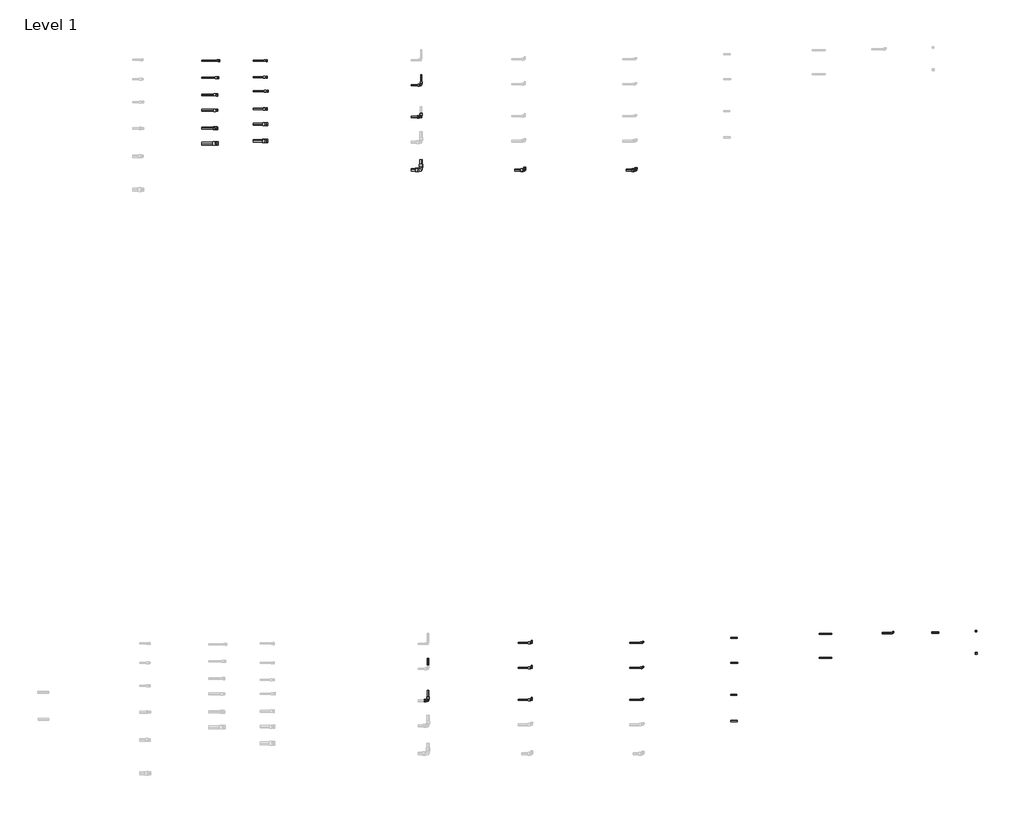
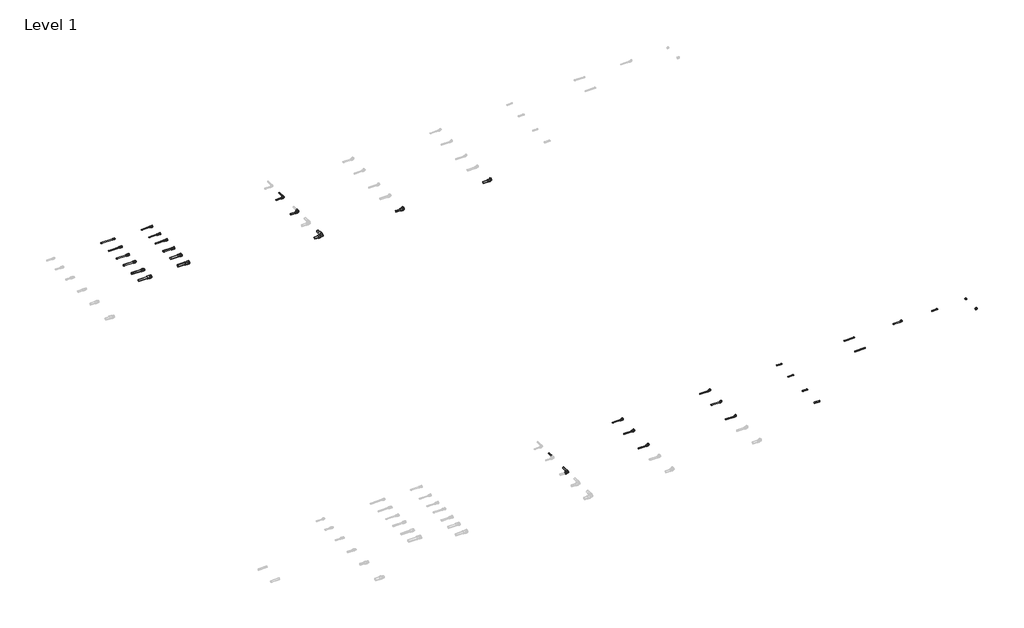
# One storey, part 32 of 78: 36 pipe segments, 27 pipe fittings.
"""IFC4 building model written with IfcOpenShell, lengths in millimetres."""

from ifc_helpers import new_model, si_unit, point, frame, frame_2d, origin, place, context, project, spatial, circle_curve, trimmed, segment, composite_curve, outline, extrude, transform, mapped, element, save
from components import pipe_fitting_bf755f27, pipe_fitting_836a2278, pipe_fitting_ec6341fa, pipe_fitting_8d4eabeb, pipe_fitting_91101529, pipe_fitting_310333dd, pipe_fitting_a340ff43, pipe_fitting_d52baa13, pipe_fitting_c8bca06d, pipe_fitting_5bbd4ca1, pipe_fitting_80b7091b, pipe_fitting_e4b23f8c, pipe_fitting_5776f994, pipe_fitting_f2230aa0, pipe_fitting_68aa3d98, pipe_fitting_c3764643, pipe_fitting_24e9e25e, pipe_fitting_f8d70d0e, pipe_fitting_18fcccac, pipe_fitting_1e296f3b, pipe_fitting_52b87474, pipe_fitting_f7ee4d9f

model = new_model("IFC4")

# Units and contexts
model_context = context("Model", 3, world=origin())
ifc_project = project(units=[si_unit("LENGTHUNIT", "METRE", prefix="MILLI")], contexts=[model_context])

# Site, building, storey
site = spatial("IfcSite", under=ifc_project)
building = spatial("IfcBuilding", under=site)
storey = spatial("IfcBuildingStorey", under=building, Name="Level 1", Elevation=0.0)

# Pipe fittings
placement = place(None, origin())
pipe_fitting_shape = pipe_fitting_bf755f27(model_context)
element("IfcPipeFitting", 1, ObjectType="FASTLOC_Adapter with union nut LX : FSL A union nut IT", at=placement, inside=storey, context=model_context, shape_type="MappedRepresentation", body=[
    mapped(pipe_fitting_shape, transform((33711.9138788, -19661.1148632, 0.0), x_axis=(1.0, 0.0, 0.0), y_axis=(0.0, 1.0, 0.0), z_axis=(0.0, 0.0, 1.0))),
])
pipe_fitting_2_shape = pipe_fitting_836a2278(model_context)
element("IfcPipeFitting", 2, ObjectType="FASTLOC_Adapter_LX, with internal thread : FSL A internal IT", at=placement, inside=storey, context=model_context, shape_type="MappedRepresentation", body=[
    mapped(pipe_fitting_2_shape, transform((33031.9138788, -18746.1148632, 0.0), x_axis=(1.0, 0.0, 0.0), y_axis=(0.0, 1.0, 0.0), z_axis=(0.0, 0.0, 1.0))),
])
pipe_fitting_3_shape = pipe_fitting_ec6341fa(model_context)
element("IfcPipeFitting", 3, ObjectType="FASTLOC_Blanking plug LX : FSL Bp LX RO", at=placement, inside=storey, context=model_context, shape_type="MappedRepresentation", body=[
    mapped(pipe_fitting_3_shape, transform((43915.4857845, -26956.0968766, 0.0), x_axis=(1.0, 0.0, 0.0), y_axis=(0.0, 1.0, 0.0), z_axis=(0.0, 0.0, 1.0))),
])
pipe_fitting_4_shape = pipe_fitting_8d4eabeb(model_context)
element("IfcPipeFitting", 4, ObjectType="FASTLOC_Elbow with female thread LX : FSL A internal RO", at=placement, inside=storey, context=model_context, shape_type="MappedRepresentation", body=[
    mapped(pipe_fitting_4_shape, transform((39136.9744513, -27124.4914884, 0.0), x_axis=(1.0, 0.0, 0.0), y_axis=(0.0, 1.0, 0.0), z_axis=(0.0, 0.0, 1.0))),
])
element("IfcPipeFitting", 5, ObjectType="FASTLOC_Elbow with female thread LX : FSL A internal RO", at=placement, inside=storey, context=model_context, shape_type="MappedRepresentation", body=[
    mapped(pipe_fitting_4_shape, transform((39136.9744513, -27484.4914884, 0.0), x_axis=(1.0, 0.0, 0.0), y_axis=(0.0, 1.0, 0.0), z_axis=(0.0, 0.0, 1.0))),
])
element("IfcPipeFitting", 6, ObjectType="FASTLOC_Elbow with female thread LX : FSL A internal RO", at=placement, inside=storey, context=model_context, shape_type="MappedRepresentation", body=[
    mapped(pipe_fitting_4_shape, transform((39136.9744513, -27944.4914884, 0.0), x_axis=(1.0, 0.0, 0.0), y_axis=(0.0, 1.0, 0.0), z_axis=(0.0, 0.0, 1.0))),
])
pipe_fitting_5_shape = pipe_fitting_91101529(model_context)
element("IfcPipeFitting", 7, ObjectType="FASTLOC_Elbow with male thread G LX : FSL A internal RO", at=placement, inside=storey, context=model_context, shape_type="MappedRepresentation", body=[
    mapped(pipe_fitting_5_shape, transform((42735.4151537, -26985.6016865, 0.0), x_axis=(1.0, 0.0, 0.0), y_axis=(0.0, 1.0, 0.0), z_axis=(0.0, 0.0, 1.0))),
])
pipe_fitting_6_shape = pipe_fitting_310333dd(model_context)
element("IfcPipeFitting", 8, ObjectType="FASTLOC_Elbow with male thread LX : FSL A internal RO", at=placement, inside=storey, context=model_context, shape_type="MappedRepresentation", body=[
    mapped(pipe_fitting_6_shape, transform((37536.9744513, -27124.4914884, 0.0), x_axis=(1.0, 0.0, 0.0), y_axis=(0.0, 1.0, 0.0), z_axis=(0.0, 0.0, 1.0))),
])
element("IfcPipeFitting", 9, ObjectType="FASTLOC_Elbow with male thread LX : FSL A internal RO", at=placement, inside=storey, context=model_context, shape_type="MappedRepresentation", body=[
    mapped(pipe_fitting_6_shape, transform((37536.9744513, -27484.4914884, 0.0), x_axis=(1.0, 0.0, 0.0), y_axis=(0.0, 1.0, 0.0), z_axis=(0.0, 0.0, 1.0))),
])
element("IfcPipeFitting", 10, ObjectType="FASTLOC_Elbow with male thread LX : FSL A internal RO", at=placement, inside=storey, context=model_context, shape_type="MappedRepresentation", body=[
    mapped(pipe_fitting_6_shape, transform((37536.9744513, -27944.4914884, 0.0), x_axis=(1.0, 0.0, 0.0), y_axis=(0.0, 1.0, 0.0), z_axis=(0.0, 0.0, 1.0))),
])
pipe_fitting_7_shape = pipe_fitting_a340ff43(model_context)
element("IfcPipeFitting", 11, ObjectType="FASTLOC_Adapter with union nut LX : FSL A union nut IT", at=placement, inside=storey, context=model_context, shape_type="MappedRepresentation", body=[
    mapped(pipe_fitting_7_shape, transform((33711.9138788, -18746.1148632, 0.0), x_axis=(1.0, 0.0, 0.0), y_axis=(0.0, 1.0, 0.0), z_axis=(0.0, 0.0, 1.0))),
])
pipe_fitting_8_shape = pipe_fitting_d52baa13(model_context)
element("IfcPipeFitting", 12, ObjectType="FASTLOC_Adapter with union nut LX : FSL A union nut IT", at=placement, inside=storey, context=model_context, shape_type="MappedRepresentation", body=[
    mapped(pipe_fitting_8_shape, transform((33711.9138788, -18986.1148632, 0.0), x_axis=(1.0, 0.0, 0.0), y_axis=(0.0, 1.0, 0.0), z_axis=(0.0, 0.0, 1.0))),
])
pipe_fitting_9_shape = pipe_fitting_c8bca06d(model_context)
element("IfcPipeFitting", 13, ObjectType="FASTLOC_Adapter with union nut LX : FSL A union nut IT", at=placement, inside=storey, context=model_context, shape_type="MappedRepresentation", body=[
    mapped(pipe_fitting_9_shape, transform((33726.0560144, -19186.9727276, 0.0), x_axis=(1.0, 0.0, 0.0), y_axis=(0.0, 1.0, 0.0), z_axis=(0.0, 0.0, 1.0))),
])
pipe_fitting_10_shape = pipe_fitting_5bbd4ca1(model_context)
element("IfcPipeFitting", 14, ObjectType="FASTLOC_Adapter with union nut LX : FSL A union nut IT", at=placement, inside=storey, context=model_context, shape_type="MappedRepresentation", body=[
    mapped(pipe_fitting_10_shape, transform((33711.9138788, -19441.1148632, 0.0), x_axis=(1.0, 0.0, 0.0), y_axis=(0.0, 1.0, 0.0), z_axis=(0.0, 0.0, 1.0))),
])
pipe_fitting_11_shape = pipe_fitting_80b7091b(model_context)
element("IfcPipeFitting", 15, ObjectType="FASTLOC_Adapter with union nut LX : FSL A union nut IT", at=placement, inside=storey, context=model_context, shape_type="MappedRepresentation", body=[
    mapped(pipe_fitting_11_shape, transform((33711.9138788, -19901.1148632, 0.0), x_axis=(1.0, 0.0, 0.0), y_axis=(0.0, 1.0, 0.0), z_axis=(0.0, 0.0, 1.0))),
])
pipe_fitting_12_shape = pipe_fitting_e4b23f8c(model_context)
element("IfcPipeFitting", 16, ObjectType="FASTLOC_Corner LX : FSL C LX IT", at=placement, inside=storey, context=model_context, shape_type="MappedRepresentation", body=[
    mapped(pipe_fitting_12_shape, transform((35945.4707441, -19098.8136389, 0.0), x_axis=(1.0, 0.0, 0.0), y_axis=(0.0, 1.0, 0.0), z_axis=(0.0, 0.0, 1.0))),
])
pipe_fitting_13_shape = pipe_fitting_5776f994(model_context)
element("IfcPipeFitting", 17, ObjectType="FASTLOC_Corner LX : FSL C LX IT", at=placement, inside=storey, context=model_context, shape_type="MappedRepresentation", body=[
    mapped(pipe_fitting_13_shape, transform((35945.4707441, -19558.8136389, 0.0), x_axis=(1.0, 0.0, 0.0), y_axis=(0.0, 1.0, 0.0), z_axis=(0.0, 0.0, 1.0))),
])
pipe_fitting_14_shape = pipe_fitting_f2230aa0(model_context)
element("IfcPipeFitting", 18, ObjectType="FASTLOC_Corner LX : FSL C LX IT", at=placement, inside=storey, context=model_context, shape_type="MappedRepresentation", body=[
    mapped(pipe_fitting_14_shape, transform((35945.4707441, -20318.8136389, 0.0), x_axis=(1.0, 0.0, 0.0), y_axis=(0.0, 1.0, 0.0), z_axis=(0.0, 0.0, 1.0))),
])
pipe_fitting_15_shape = pipe_fitting_68aa3d98(model_context)
element("IfcPipeFitting", 19, ObjectType="FASTLOC_Elbow with male thread LX : FSL A internal IT", at=placement, inside=storey, context=model_context, shape_type="MappedRepresentation", body=[
    mapped(pipe_fitting_15_shape, transform((37436.9744513, -20324.4914884, 0.0), x_axis=(1.0, 0.0, 0.0), y_axis=(0.0, 1.0, 0.0), z_axis=(0.0, 0.0, 1.0))),
])
pipe_fitting_16_shape = pipe_fitting_c3764643(model_context)
element("IfcPipeFitting", 20, ObjectType="FASTLOC_Elbow with female thread LX : FSL A internal IT", at=placement, inside=storey, context=model_context, shape_type="MappedRepresentation", body=[
    mapped(pipe_fitting_16_shape, transform((39036.9744513, -20324.4914884, 0.0), x_axis=(1.0, 0.0, 0.0), y_axis=(0.0, 1.0, 0.0), z_axis=(0.0, 0.0, 1.0))),
])
element("IfcPipeFitting", 21, ObjectType="FASTLOC_Corner LX : FSL C LX RO", at=placement, inside=storey, context=model_context, shape_type="MappedRepresentation", body=[
    mapped(pipe_fitting_13_shape, transform((36045.4707441, -27958.8136389, 0.0), x_axis=(1.0, 0.0, 0.0), y_axis=(0.0, 1.0, 0.0), z_axis=(0.0, 0.0, 1.0))),
])
pipe_fitting_17_shape = pipe_fitting_24e9e25e(model_context)
element("IfcPipeFitting", 22, ObjectType="FASTLOC_Blanking plug LX : FSL Bp LX RO", at=placement, inside=storey, context=model_context, shape_type="MappedRepresentation", body=[
    mapped(pipe_fitting_17_shape, transform((43915.4857845, -27276.0968766, 0.0), x_axis=(1.0, 0.0, 0.0), y_axis=(0.0, 1.0, 0.0), z_axis=(0.0, 0.0, 1.0))),
])
pipe_fitting_18_shape = pipe_fitting_f8d70d0e(model_context)
element("IfcPipeFitting", 23, ObjectType="FASTLOC_Adapter_LX, with internal thread : FSL A internal IT", at=placement, inside=storey, context=model_context, shape_type="MappedRepresentation", body=[
    mapped(pipe_fitting_18_shape, transform((33002.7717432, -19240.2569989, 0.0), x_axis=(1.0, 0.0, 0.0), y_axis=(0.0, 1.0, 0.0), z_axis=(0.0, 0.0, 1.0))),
])
pipe_fitting_19_shape = pipe_fitting_18fcccac(model_context)
element("IfcPipeFitting", 24, ObjectType="FASTLOC_Adapter_LX, with internal thread : FSL A internal IT", at=placement, inside=storey, context=model_context, shape_type="MappedRepresentation", body=[
    mapped(pipe_fitting_19_shape, transform((33002.7717432, -19460.2569989, 0.0), x_axis=(1.0, 0.0, 0.0), y_axis=(0.0, 1.0, 0.0), z_axis=(0.0, 0.0, 1.0))),
])
pipe_fitting_20_shape = pipe_fitting_1e296f3b(model_context)
element("IfcPipeFitting", 25, ObjectType="FASTLOC_Adapter_LX, with internal thread : FSL A internal IT", at=placement, inside=storey, context=model_context, shape_type="MappedRepresentation", body=[
    mapped(pipe_fitting_20_shape, transform((33002.7717432, -19720.2569989, 0.0), x_axis=(1.0, 0.0, 0.0), y_axis=(0.0, 1.0, 0.0), z_axis=(0.0, 0.0, 1.0))),
])
pipe_fitting_21_shape = pipe_fitting_52b87474(model_context)
element("IfcPipeFitting", 26, ObjectType="FASTLOC_Adapter_LX, with internal thread : FSL A internal IT", at=placement, inside=storey, context=model_context, shape_type="MappedRepresentation", body=[
    mapped(pipe_fitting_21_shape, transform((33002.7717432, -19940.2569989, 0.0), x_axis=(1.0, 0.0, 0.0), y_axis=(0.0, 1.0, 0.0), z_axis=(0.0, 0.0, 1.0))),
])
pipe_fitting_22_shape = pipe_fitting_f7ee4d9f(model_context)
element("IfcPipeFitting", 27, ObjectType="FASTLOC_Adapter_LX, with internal thread : FSL A internal IT", at=placement, inside=storey, context=model_context, shape_type="MappedRepresentation", body=[
    mapped(pipe_fitting_22_shape, transform((33019.5138788, -18992.5715861, 0.0), x_axis=(1.0, 0.0, 0.0), y_axis=(0.0, 1.0, 0.0), z_axis=(0.0, 0.0, 1.0))),
])

# Pipe segments
element("IfcPipeSegment", 28, ObjectType="FASTLOC LX ML IT bar", at=placement, inside=storey, context=model_context, shape_type="SweptSolid", body=[
    extrude(outline(composite_curve([segment(trimmed(circle_curve(frame_2d((-18746.1148632, 0.0)), 8.0), [point((-18738.1148632, 0.0))], [point((-18746.1148632, -8.0))], False, "CARTESIAN"), True, "CONTINUOUS"), segment(trimmed(circle_curve(frame_2d((-18746.1148632, 0.0)), 8.0), [point((-18746.1148632, -8.0))], [point((-18754.1148632, 0.0))], False, "CARTESIAN"), True, "CONTINUOUS"), segment(trimmed(circle_curve(frame_2d((-18746.1148632, 0.0)), 8.0), [point((-18754.1148632, 0.0))], [point((-18746.1148632, 8.0))], False, "CARTESIAN"), True, "CONTINUOUS"), segment(trimmed(circle_curve(frame_2d((-18746.1148632, 0.0)), 8.0), [point((-18746.1148632, 8.0))], [point((-18738.1148632, 0.0))], False, "CARTESIAN"), True, "CONTINUOUS")], self_intersect=False)), frame((32790.3717432, 0.0, 0.0), z_axis=(1.0, 0.0, 0.0), x_axis=(0.0, 1.0, 0.0)), (0.0, 0.0, 1.0), 229.1421356),
])
element("IfcPipeSegment", 29, ObjectType="FASTLOC LX ML IT bar", at=placement, inside=storey, context=model_context, shape_type="SweptSolid", body=[
    extrude(outline(composite_curve([segment(trimmed(circle_curve(frame_2d((-19098.8136389, 0.0)), 8.0), [point((-19090.8136389, 0.0))], [point((-19098.8136389, -8.0))], False, "CARTESIAN"), True, "CONTINUOUS"), segment(trimmed(circle_curve(frame_2d((-19098.8136389, 0.0)), 8.0), [point((-19098.8136389, -8.0))], [point((-19106.8136389, 0.0))], False, "CARTESIAN"), True, "CONTINUOUS"), segment(trimmed(circle_curve(frame_2d((-19098.8136389, 0.0)), 8.0), [point((-19106.8136389, 0.0))], [point((-19098.8136389, 8.0))], False, "CARTESIAN"), True, "CONTINUOUS"), segment(trimmed(circle_curve(frame_2d((-19098.8136389, 0.0)), 8.0), [point((-19098.8136389, 8.0))], [point((-19090.8136389, 0.0))], False, "CARTESIAN"), True, "CONTINUOUS")], self_intersect=False)), frame((35803.3707441, 0.0, 0.0), z_axis=(1.0, 0.0, 0.0), x_axis=(0.0, 1.0, 0.0)), (0.0, 0.0, 1.0), 117.5),
])
element("IfcPipeSegment", 30, ObjectType="FASTLOC LX ML IT bar", at=placement, inside=storey, context=model_context, shape_type="SweptSolid", body=[
    extrude(outline(composite_curve([segment(trimmed(circle_curve(frame_2d((0.0, 35945.4707441)), 8.0), [point((0.0, 35953.4707441))], [point((8.0, 35945.4707441))], False, "CARTESIAN"), True, "CONTINUOUS"), segment(trimmed(circle_curve(frame_2d((0.0, 35945.4707441)), 8.0), [point((8.0, 35945.4707441))], [point((0.0, 35937.4707441))], False, "CARTESIAN"), True, "CONTINUOUS"), segment(trimmed(circle_curve(frame_2d((0.0, 35945.4707441)), 8.0), [point((0.0, 35937.4707441))], [point((-8.0, 35945.4707441))], False, "CARTESIAN"), True, "CONTINUOUS"), segment(trimmed(circle_curve(frame_2d((0.0, 35945.4707441)), 8.0), [point((-8.0, 35945.4707441))], [point((0.0, 35953.4707441))], False, "CARTESIAN"), True, "CONTINUOUS")], self_intersect=False)), frame((0.0, -19074.2136389, 0.0), z_axis=(0.0, 1.0, 0.0), x_axis=(0.0, 0.0, 1.0)), (0.0, 0.0, 1.0), 122.5),
])
element("IfcPipeSegment", 31, ObjectType="FASTLOC LX ML IT bar", at=placement, inside=storey, context=model_context, shape_type="SweptSolid", body=[
    extrude(outline(composite_curve([segment(trimmed(circle_curve(frame_2d((-19558.8136389, 0.0)), 12.5), [point((-19546.3136389, 0.0))], [point((-19558.8136389, -12.5))], False, "CARTESIAN"), True, "CONTINUOUS"), segment(trimmed(circle_curve(frame_2d((-19558.8136389, 0.0)), 12.5), [point((-19558.8136389, -12.5))], [point((-19571.3136389, 0.0))], False, "CARTESIAN"), True, "CONTINUOUS"), segment(trimmed(circle_curve(frame_2d((-19558.8136389, 0.0)), 12.5), [point((-19571.3136389, 0.0))], [point((-19558.8136389, 12.5))], False, "CARTESIAN"), True, "CONTINUOUS"), segment(trimmed(circle_curve(frame_2d((-19558.8136389, 0.0)), 12.5), [point((-19558.8136389, 12.5))], [point((-19546.3136389, 0.0))], False, "CARTESIAN"), True, "CONTINUOUS")], self_intersect=False)), frame((35803.3707441, 0.0, 0.0), z_axis=(1.0, 0.0, 0.0), x_axis=(0.0, 1.0, 0.0)), (0.0, 0.0, 1.0), 113.1),
])
element("IfcPipeSegment", 32, ObjectType="FASTLOC LX ML IT bar", at=placement, inside=storey, context=model_context, shape_type="SweptSolid", body=[
    extrude(outline(composite_curve([segment(trimmed(circle_curve(frame_2d((-20318.8136389, 0.0)), 20.0), [point((-20298.8136389, 0.0))], [point((-20318.8136389, -20.0))], False, "CARTESIAN"), True, "CONTINUOUS"), segment(trimmed(circle_curve(frame_2d((-20318.8136389, 0.0)), 20.0), [point((-20318.8136389, -20.0))], [point((-20338.8136389, 0.0))], False, "CARTESIAN"), True, "CONTINUOUS"), segment(trimmed(circle_curve(frame_2d((-20318.8136389, 0.0)), 20.0), [point((-20338.8136389, 0.0))], [point((-20318.8136389, 20.0))], False, "CARTESIAN"), True, "CONTINUOUS"), segment(trimmed(circle_curve(frame_2d((-20318.8136389, 0.0)), 20.0), [point((-20318.8136389, 20.0))], [point((-20298.8136389, 0.0))], False, "CARTESIAN"), True, "CONTINUOUS")], self_intersect=False)), frame((35803.3707441, 0.0, 0.0), z_axis=(1.0, 0.0, 0.0), x_axis=(0.0, 1.0, 0.0)), (0.0, 0.0, 1.0), 97.4),
])
element("IfcPipeSegment", 33, ObjectType="FASTLOC LX ML IT bar", at=placement, inside=storey, context=model_context, shape_type="SweptSolid", body=[
    extrude(outline(composite_curve([segment(trimmed(circle_curve(frame_2d((0.0, 35945.4707441)), 20.0), [point((0.0, 35965.4707441))], [point((20.0, 35945.4707441))], False, "CARTESIAN"), True, "CONTINUOUS"), segment(trimmed(circle_curve(frame_2d((0.0, 35945.4707441)), 20.0), [point((20.0, 35945.4707441))], [point((0.0, 35925.4707441))], False, "CARTESIAN"), True, "CONTINUOUS"), segment(trimmed(circle_curve(frame_2d((0.0, 35945.4707441)), 20.0), [point((0.0, 35925.4707441))], [point((-20.0, 35945.4707441))], False, "CARTESIAN"), True, "CONTINUOUS"), segment(trimmed(circle_curve(frame_2d((0.0, 35945.4707441)), 20.0), [point((-20.0, 35945.4707441))], [point((0.0, 35965.4707441))], False, "CARTESIAN"), True, "CONTINUOUS")], self_intersect=False)), frame((0.0, -20274.1136389, 0.0), z_axis=(0.0, 1.0, 0.0), x_axis=(0.0, 0.0, 1.0)), (0.0, 0.0, 1.0), 102.4),
])
element("IfcPipeSegment", 34, ObjectType="FASTLOC LX ML IT bar", at=placement, inside=storey, context=model_context, shape_type="SweptSolid", body=[
    extrude(outline(composite_curve([segment(trimmed(circle_curve(frame_2d((-18992.5715861, 0.0)), 8.0), [point((-18984.5715861, 0.0))], [point((-18992.5715861, -8.0))], False, "CARTESIAN"), True, "CONTINUOUS"), segment(trimmed(circle_curve(frame_2d((-18992.5715861, 0.0)), 8.0), [point((-18992.5715861, -8.0))], [point((-19000.5715861, 0.0))], False, "CARTESIAN"), True, "CONTINUOUS"), segment(trimmed(circle_curve(frame_2d((-18992.5715861, 0.0)), 8.0), [point((-19000.5715861, 0.0))], [point((-18992.5715861, 8.0))], False, "CARTESIAN"), True, "CONTINUOUS"), segment(trimmed(circle_curve(frame_2d((-18992.5715861, 0.0)), 8.0), [point((-18992.5715861, 8.0))], [point((-18984.5715861, 0.0))], False, "CARTESIAN"), True, "CONTINUOUS")], self_intersect=False)), frame((32790.3717432, 0.0, 0.0), z_axis=(1.0, 0.0, 0.0), x_axis=(0.0, 1.0, 0.0)), (0.0, 0.0, 1.0), 217.4421356),
])
element("IfcPipeSegment", 35, ObjectType="FASTLOC LX ML IT bar", at=placement, inside=storey, context=model_context, shape_type="SweptSolid", body=[
    extrude(outline(composite_curve([segment(trimmed(circle_curve(frame_2d((-19240.2569989, 0.0)), 8.0), [point((-19232.2569989, 0.0))], [point((-19240.2569989, -8.0))], False, "CARTESIAN"), True, "CONTINUOUS"), segment(trimmed(circle_curve(frame_2d((-19240.2569989, 0.0)), 8.0), [point((-19240.2569989, -8.0))], [point((-19248.2569989, 0.0))], False, "CARTESIAN"), True, "CONTINUOUS"), segment(trimmed(circle_curve(frame_2d((-19240.2569989, 0.0)), 8.0), [point((-19248.2569989, 0.0))], [point((-19240.2569989, 8.0))], False, "CARTESIAN"), True, "CONTINUOUS"), segment(trimmed(circle_curve(frame_2d((-19240.2569989, 0.0)), 8.0), [point((-19240.2569989, 8.0))], [point((-19232.2569989, 0.0))], False, "CARTESIAN"), True, "CONTINUOUS")], self_intersect=False)), frame((32790.3717432, 0.0, 0.0), z_axis=(1.0, 0.0, 0.0), x_axis=(0.0, 1.0, 0.0)), (0.0, 0.0, 1.0), 199.1),
])
element("IfcPipeSegment", 36, ObjectType="FASTLOC LX ML IT bar", at=placement, inside=storey, context=model_context, shape_type="SweptSolid", body=[
    extrude(outline(composite_curve([segment(trimmed(circle_curve(frame_2d((-19460.2569989, 0.0)), 12.5), [point((-19447.7569989, 0.0))], [point((-19460.2569989, -12.5))], False, "CARTESIAN"), True, "CONTINUOUS"), segment(trimmed(circle_curve(frame_2d((-19460.2569989, 0.0)), 12.5), [point((-19460.2569989, -12.5))], [point((-19472.7569989, 0.0))], False, "CARTESIAN"), True, "CONTINUOUS"), segment(trimmed(circle_curve(frame_2d((-19460.2569989, 0.0)), 12.5), [point((-19472.7569989, 0.0))], [point((-19460.2569989, 12.5))], False, "CARTESIAN"), True, "CONTINUOUS"), segment(trimmed(circle_curve(frame_2d((-19460.2569989, 0.0)), 12.5), [point((-19460.2569989, 12.5))], [point((-19447.7569989, 0.0))], False, "CARTESIAN"), True, "CONTINUOUS")], self_intersect=False)), frame((32790.3717432, 0.0, 0.0), z_axis=(1.0, 0.0, 0.0), x_axis=(0.0, 1.0, 0.0)), (0.0, 0.0, 1.0), 199.5),
])
element("IfcPipeSegment", 37, ObjectType="FASTLOC LX ML IT bar", at=placement, inside=storey, context=model_context, shape_type="SweptSolid", body=[
    extrude(outline(composite_curve([segment(trimmed(circle_curve(frame_2d((-19720.2569989, 0.0)), 16.0), [point((-19704.2569989, 0.0))], [point((-19720.2569989, -16.0))], False, "CARTESIAN"), True, "CONTINUOUS"), segment(trimmed(circle_curve(frame_2d((-19720.2569989, 0.0)), 16.0), [point((-19720.2569989, -16.0))], [point((-19736.2569989, 0.0))], False, "CARTESIAN"), True, "CONTINUOUS"), segment(trimmed(circle_curve(frame_2d((-19720.2569989, 0.0)), 16.0), [point((-19736.2569989, 0.0))], [point((-19720.2569989, 16.0))], False, "CARTESIAN"), True, "CONTINUOUS"), segment(trimmed(circle_curve(frame_2d((-19720.2569989, 0.0)), 16.0), [point((-19720.2569989, 16.0))], [point((-19704.2569989, 0.0))], False, "CARTESIAN"), True, "CONTINUOUS")], self_intersect=False)), frame((32790.3717432, 0.0, 0.0), z_axis=(1.0, 0.0, 0.0), x_axis=(0.0, 1.0, 0.0)), (0.0, 0.0, 1.0), 197.9),
])
element("IfcPipeSegment", 38, ObjectType="FASTLOC LX ML IT bar", at=placement, inside=storey, context=model_context, shape_type="SweptSolid", body=[
    extrude(outline(composite_curve([segment(trimmed(circle_curve(frame_2d((-19940.2569989, 0.0)), 20.0), [point((-19920.2569989, 0.0))], [point((-19940.2569989, -20.0))], False, "CARTESIAN"), True, "CONTINUOUS"), segment(trimmed(circle_curve(frame_2d((-19940.2569989, 0.0)), 20.0), [point((-19940.2569989, -20.0))], [point((-19960.2569989, 0.0))], False, "CARTESIAN"), True, "CONTINUOUS"), segment(trimmed(circle_curve(frame_2d((-19940.2569989, 0.0)), 20.0), [point((-19960.2569989, 0.0))], [point((-19940.2569989, 20.0))], False, "CARTESIAN"), True, "CONTINUOUS"), segment(trimmed(circle_curve(frame_2d((-19940.2569989, 0.0)), 20.0), [point((-19940.2569989, 20.0))], [point((-19920.2569989, 0.0))], False, "CARTESIAN"), True, "CONTINUOUS")], self_intersect=False)), frame((32790.3717432, 0.0, 0.0), z_axis=(1.0, 0.0, 0.0), x_axis=(0.0, 1.0, 0.0)), (0.0, 0.0, 1.0), 192.4),
])
element("IfcPipeSegment", 39, ObjectType="FASTLOC LX ML IT bar", at=placement, inside=storey, context=model_context, shape_type="SweptSolid", body=[
    extrude(outline(composite_curve([segment(trimmed(circle_curve(frame_2d((-18746.1148632, 0.0)), 8.0), [point((-18738.1148632, 0.0))], [point((-18746.1148632, -8.0))], False, "CARTESIAN"), True, "CONTINUOUS"), segment(trimmed(circle_curve(frame_2d((-18746.1148632, 0.0)), 8.0), [point((-18746.1148632, -8.0))], [point((-18754.1148632, 0.0))], False, "CARTESIAN"), True, "CONTINUOUS"), segment(trimmed(circle_curve(frame_2d((-18746.1148632, 0.0)), 8.0), [point((-18754.1148632, 0.0))], [point((-18746.1148632, 8.0))], False, "CARTESIAN"), True, "CONTINUOUS"), segment(trimmed(circle_curve(frame_2d((-18746.1148632, 0.0)), 8.0), [point((-18746.1148632, 8.0))], [point((-18738.1148632, 0.0))], False, "CARTESIAN"), True, "CONTINUOUS")], self_intersect=False)), frame((33532.9138788, 0.0, 0.0), z_axis=(1.0, 0.0, 0.0), x_axis=(0.0, 1.0, 0.0)), (0.0, 0.0, 1.0), 170.0),
])
element("IfcPipeSegment", 40, ObjectType="FASTLOC LX ML IT bar", at=placement, inside=storey, context=model_context, shape_type="SweptSolid", body=[
    extrude(outline(composite_curve([segment(trimmed(circle_curve(frame_2d((-18986.1148632, 0.0)), 8.0), [point((-18978.1148632, 0.0))], [point((-18986.1148632, -8.0))], False, "CARTESIAN"), True, "CONTINUOUS"), segment(trimmed(circle_curve(frame_2d((-18986.1148632, 0.0)), 8.0), [point((-18986.1148632, -8.0))], [point((-18994.1148632, 0.0))], False, "CARTESIAN"), True, "CONTINUOUS"), segment(trimmed(circle_curve(frame_2d((-18986.1148632, 0.0)), 8.0), [point((-18994.1148632, 0.0))], [point((-18986.1148632, 8.0))], False, "CARTESIAN"), True, "CONTINUOUS"), segment(trimmed(circle_curve(frame_2d((-18986.1148632, 0.0)), 8.0), [point((-18986.1148632, 8.0))], [point((-18978.1148632, 0.0))], False, "CARTESIAN"), True, "CONTINUOUS")], self_intersect=False)), frame((33532.9138788, 0.0, 0.0), z_axis=(1.0, 0.0, 0.0), x_axis=(0.0, 1.0, 0.0)), (0.0, 0.0, 1.0), 170.0),
])
element("IfcPipeSegment", 41, ObjectType="FASTLOC LX ML IT bar", at=placement, inside=storey, context=model_context, shape_type="SweptSolid", body=[
    extrude(outline(composite_curve([segment(trimmed(circle_curve(frame_2d((-19441.1148632, 0.0)), 12.5), [point((-19428.6148632, 0.0))], [point((-19441.1148632, -12.5))], False, "CARTESIAN"), True, "CONTINUOUS"), segment(trimmed(circle_curve(frame_2d((-19441.1148632, 0.0)), 12.5), [point((-19441.1148632, -12.5))], [point((-19453.6148632, 0.0))], False, "CARTESIAN"), True, "CONTINUOUS"), segment(trimmed(circle_curve(frame_2d((-19441.1148632, 0.0)), 12.5), [point((-19453.6148632, 0.0))], [point((-19441.1148632, 12.5))], False, "CARTESIAN"), True, "CONTINUOUS"), segment(trimmed(circle_curve(frame_2d((-19441.1148632, 0.0)), 12.5), [point((-19441.1148632, 12.5))], [point((-19428.6148632, 0.0))], False, "CARTESIAN"), True, "CONTINUOUS")], self_intersect=False)), frame((33532.9138788, 0.0, 0.0), z_axis=(1.0, 0.0, 0.0), x_axis=(0.0, 1.0, 0.0)), (0.0, 0.0, 1.0), 168.7),
])
element("IfcPipeSegment", 42, ObjectType="FASTLOC LX ML IT bar", at=placement, inside=storey, context=model_context, shape_type="SweptSolid", body=[
    extrude(outline(composite_curve([segment(trimmed(circle_curve(frame_2d((-19661.1148632, 0.0)), 16.0), [point((-19645.1148632, 0.0))], [point((-19661.1148632, -16.0))], False, "CARTESIAN"), True, "CONTINUOUS"), segment(trimmed(circle_curve(frame_2d((-19661.1148632, 0.0)), 16.0), [point((-19661.1148632, -16.0))], [point((-19677.1148632, 0.0))], False, "CARTESIAN"), True, "CONTINUOUS"), segment(trimmed(circle_curve(frame_2d((-19661.1148632, 0.0)), 16.0), [point((-19677.1148632, 0.0))], [point((-19661.1148632, 16.0))], False, "CARTESIAN"), True, "CONTINUOUS"), segment(trimmed(circle_curve(frame_2d((-19661.1148632, 0.0)), 16.0), [point((-19661.1148632, 16.0))], [point((-19645.1148632, 0.0))], False, "CARTESIAN"), True, "CONTINUOUS")], self_intersect=False)), frame((33532.9138788, 0.0, 0.0), z_axis=(1.0, 0.0, 0.0), x_axis=(0.0, 1.0, 0.0)), (0.0, 0.0, 1.0), 167.5),
])
element("IfcPipeSegment", 43, ObjectType="FASTLOC LX ML IT bar", at=placement, inside=storey, context=model_context, shape_type="SweptSolid", body=[
    extrude(outline(composite_curve([segment(trimmed(circle_curve(frame_2d((-19901.1148632, 0.0)), 20.0), [point((-19881.1148632, 0.0))], [point((-19901.1148632, -20.0))], False, "CARTESIAN"), True, "CONTINUOUS"), segment(trimmed(circle_curve(frame_2d((-19901.1148632, 0.0)), 20.0), [point((-19901.1148632, -20.0))], [point((-19921.1148632, 0.0))], False, "CARTESIAN"), True, "CONTINUOUS"), segment(trimmed(circle_curve(frame_2d((-19901.1148632, 0.0)), 20.0), [point((-19921.1148632, 0.0))], [point((-19901.1148632, 20.0))], False, "CARTESIAN"), True, "CONTINUOUS"), segment(trimmed(circle_curve(frame_2d((-19901.1148632, 0.0)), 20.0), [point((-19901.1148632, 20.0))], [point((-19881.1148632, 0.0))], False, "CARTESIAN"), True, "CONTINUOUS")], self_intersect=False)), frame((33532.9138788, 0.0, 0.0), z_axis=(1.0, 0.0, 0.0), x_axis=(0.0, 1.0, 0.0)), (0.0, 0.0, 1.0), 167.5),
])
element("IfcPipeSegment", 44, ObjectType="FASTLOC LX ML IT bar", at=placement, inside=storey, context=model_context, shape_type="SweptSolid", body=[
    extrude(outline(composite_curve([segment(trimmed(circle_curve(frame_2d((-20324.4914884, 0.0)), 16.0), [point((-20308.4914884, 0.0))], [point((-20324.4914884, -16.0))], False, "CARTESIAN"), True, "CONTINUOUS"), segment(trimmed(circle_curve(frame_2d((-20324.4914884, 0.0)), 16.0), [point((-20324.4914884, -16.0))], [point((-20340.4914884, 0.0))], False, "CARTESIAN"), True, "CONTINUOUS"), segment(trimmed(circle_curve(frame_2d((-20324.4914884, 0.0)), 16.0), [point((-20340.4914884, 0.0))], [point((-20324.4914884, 16.0))], False, "CARTESIAN"), True, "CONTINUOUS"), segment(trimmed(circle_curve(frame_2d((-20324.4914884, 0.0)), 16.0), [point((-20324.4914884, 16.0))], [point((-20308.4914884, 0.0))], False, "CARTESIAN"), True, "CONTINUOUS")], self_intersect=False)), frame((37294.8744513, 0.0, 0.0), z_axis=(1.0, 0.0, 0.0), x_axis=(0.0, 1.0, 0.0)), (0.0, 0.0, 1.0), 112.4),
])
element("IfcPipeSegment", 45, ObjectType="FASTLOC LX ML IT bar", at=placement, inside=storey, context=model_context, shape_type="SweptSolid", body=[
    extrude(outline(composite_curve([segment(trimmed(circle_curve(frame_2d((-19186.9727276, 0.0)), 8.0), [point((-19178.9727276, 0.0))], [point((-19186.9727276, -8.0))], False, "CARTESIAN"), True, "CONTINUOUS"), segment(trimmed(circle_curve(frame_2d((-19186.9727276, 0.0)), 8.0), [point((-19186.9727276, -8.0))], [point((-19194.9727276, 0.0))], False, "CARTESIAN"), True, "CONTINUOUS"), segment(trimmed(circle_curve(frame_2d((-19186.9727276, 0.0)), 8.0), [point((-19194.9727276, 0.0))], [point((-19186.9727276, 8.0))], False, "CARTESIAN"), True, "CONTINUOUS"), segment(trimmed(circle_curve(frame_2d((-19186.9727276, 0.0)), 8.0), [point((-19186.9727276, 8.0))], [point((-19178.9727276, 0.0))], False, "CARTESIAN"), True, "CONTINUOUS")], self_intersect=False)), frame((33532.9138788, 0.0, 0.0), z_axis=(1.0, 0.0, 0.0), x_axis=(0.0, 1.0, 0.0)), (0.0, 0.0, 1.0), 184.1421356),
])
element("IfcPipeSegment", 46, ObjectType="FASTLOC LX ML IT bar", at=placement, inside=storey, context=model_context, shape_type="SweptSolid", body=[
    extrude(outline(composite_curve([segment(trimmed(circle_curve(frame_2d((-20324.4914884, 0.0)), 16.0), [point((-20308.4914884, 0.0))], [point((-20324.4914884, -16.0))], False, "CARTESIAN"), True, "CONTINUOUS"), segment(trimmed(circle_curve(frame_2d((-20324.4914884, 0.0)), 16.0), [point((-20324.4914884, -16.0))], [point((-20340.4914884, 0.0))], False, "CARTESIAN"), True, "CONTINUOUS"), segment(trimmed(circle_curve(frame_2d((-20324.4914884, 0.0)), 16.0), [point((-20340.4914884, 0.0))], [point((-20324.4914884, 16.0))], False, "CARTESIAN"), True, "CONTINUOUS"), segment(trimmed(circle_curve(frame_2d((-20324.4914884, 0.0)), 16.0), [point((-20324.4914884, 16.0))], [point((-20308.4914884, 0.0))], False, "CARTESIAN"), True, "CONTINUOUS")], self_intersect=False)), frame((38894.8744513, 0.0, 0.0), z_axis=(1.0, 0.0, 0.0), x_axis=(0.0, 1.0, 0.0)), (0.0, 0.0, 1.0), 110.1),
])
element("IfcPipeSegment", 47, ObjectType="FASTLOC LX ML RO bar", at=placement, inside=storey, context=model_context, shape_type="SweptSolid", body=[
    extrude(outline(composite_curve([segment(trimmed(circle_curve(frame_2d((0.0, 36045.4707441)), 8.0), [point((0.0, 36053.4707441))], [point((8.0, 36045.4707441))], False, "CARTESIAN"), True, "CONTINUOUS"), segment(trimmed(circle_curve(frame_2d((0.0, 36045.4707441)), 8.0), [point((8.0, 36045.4707441))], [point((0.0, 36037.4707441))], False, "CARTESIAN"), True, "CONTINUOUS"), segment(trimmed(circle_curve(frame_2d((0.0, 36045.4707441)), 8.0), [point((0.0, 36037.4707441))], [point((-8.0, 36045.4707441))], False, "CARTESIAN"), True, "CONTINUOUS"), segment(trimmed(circle_curve(frame_2d((0.0, 36045.4707441)), 8.0), [point((-8.0, 36045.4707441))], [point((0.0, 36053.4707441))], False, "CARTESIAN"), True, "CONTINUOUS")], self_intersect=False)), frame((0.0, -27474.2136389, 0.0), z_axis=(0.0, 1.0, 0.0), x_axis=(0.0, 0.0, 1.0)), (0.0, 0.0, 1.0), 122.5),
])
element("IfcPipeSegment", 48, ObjectType="FASTLOC LX ML RO bar", at=placement, inside=storey, context=model_context, shape_type="SweptSolid", body=[
    extrude(outline(composite_curve([segment(trimmed(circle_curve(frame_2d((0.0, 36045.4707441)), 12.5), [point((0.0, 36057.9707441))], [point((12.5, 36045.4707441))], False, "CARTESIAN"), True, "CONTINUOUS"), segment(trimmed(circle_curve(frame_2d((0.0, 36045.4707441)), 12.5), [point((12.5, 36045.4707441))], [point((0.0, 36032.9707441))], False, "CARTESIAN"), True, "CONTINUOUS"), segment(trimmed(circle_curve(frame_2d((0.0, 36045.4707441)), 12.5), [point((0.0, 36032.9707441))], [point((-12.5, 36045.4707441))], False, "CARTESIAN"), True, "CONTINUOUS"), segment(trimmed(circle_curve(frame_2d((0.0, 36045.4707441)), 12.5), [point((-12.5, 36045.4707441))], [point((0.0, 36057.9707441))], False, "CARTESIAN"), True, "CONTINUOUS")], self_intersect=False)), frame((0.0, -27929.8136389, 0.0), z_axis=(0.0, 1.0, 0.0), x_axis=(0.0, 0.0, 1.0)), (0.0, 0.0, 1.0), 118.1),
])
element("IfcPipeSegment", 49, ObjectType="FASTLOC LX ML RO bar", at=placement, inside=storey, context=model_context, shape_type="SweptSolid", body=[
    extrude(outline(composite_curve([segment(trimmed(circle_curve(frame_2d((-27124.4914884, 0.0)), 8.0), [point((-27116.4914884, 0.0))], [point((-27124.4914884, -8.0))], False, "CARTESIAN"), True, "CONTINUOUS"), segment(trimmed(circle_curve(frame_2d((-27124.4914884, 0.0)), 8.0), [point((-27124.4914884, -8.0))], [point((-27132.4914884, 0.0))], False, "CARTESIAN"), True, "CONTINUOUS"), segment(trimmed(circle_curve(frame_2d((-27124.4914884, 0.0)), 8.0), [point((-27132.4914884, 0.0))], [point((-27124.4914884, 8.0))], False, "CARTESIAN"), True, "CONTINUOUS"), segment(trimmed(circle_curve(frame_2d((-27124.4914884, 0.0)), 8.0), [point((-27124.4914884, 8.0))], [point((-27116.4914884, 0.0))], False, "CARTESIAN"), True, "CONTINUOUS")], self_intersect=False)), frame((37346.7744513, 0.0, 0.0), z_axis=(1.0, 0.0, 0.0), x_axis=(0.0, 1.0, 0.0)), (0.0, 0.0, 1.0), 170.0),
])
element("IfcPipeSegment", 50, ObjectType="FASTLOC LX ML RO bar", at=placement, inside=storey, context=model_context, shape_type="SweptSolid", body=[
    extrude(outline(composite_curve([segment(trimmed(circle_curve(frame_2d((-27484.4914884, 0.0)), 8.0), [point((-27476.4914884, 0.0))], [point((-27484.4914884, -8.0))], False, "CARTESIAN"), True, "CONTINUOUS"), segment(trimmed(circle_curve(frame_2d((-27484.4914884, 0.0)), 8.0), [point((-27484.4914884, -8.0))], [point((-27492.4914884, 0.0))], False, "CARTESIAN"), True, "CONTINUOUS"), segment(trimmed(circle_curve(frame_2d((-27484.4914884, 0.0)), 8.0), [point((-27492.4914884, 0.0))], [point((-27484.4914884, 8.0))], False, "CARTESIAN"), True, "CONTINUOUS"), segment(trimmed(circle_curve(frame_2d((-27484.4914884, 0.0)), 8.0), [point((-27484.4914884, 8.0))], [point((-27476.4914884, 0.0))], False, "CARTESIAN"), True, "CONTINUOUS")], self_intersect=False)), frame((37346.7744513, 0.0, 0.0), z_axis=(1.0, 0.0, 0.0), x_axis=(0.0, 1.0, 0.0)), (0.0, 0.0, 1.0), 170.0),
])
element("IfcPipeSegment", 51, ObjectType="FASTLOC LX ML RO bar", at=placement, inside=storey, context=model_context, shape_type="SweptSolid", body=[
    extrude(outline(composite_curve([segment(trimmed(circle_curve(frame_2d((-27944.4914884, 0.0)), 8.0), [point((-27936.4914884, 0.0))], [point((-27944.4914884, -8.0))], False, "CARTESIAN"), True, "CONTINUOUS"), segment(trimmed(circle_curve(frame_2d((-27944.4914884, 0.0)), 8.0), [point((-27944.4914884, -8.0))], [point((-27952.4914884, 0.0))], False, "CARTESIAN"), True, "CONTINUOUS"), segment(trimmed(circle_curve(frame_2d((-27944.4914884, 0.0)), 8.0), [point((-27952.4914884, 0.0))], [point((-27944.4914884, 8.0))], False, "CARTESIAN"), True, "CONTINUOUS"), segment(trimmed(circle_curve(frame_2d((-27944.4914884, 0.0)), 8.0), [point((-27944.4914884, 8.0))], [point((-27936.4914884, 0.0))], False, "CARTESIAN"), True, "CONTINUOUS")], self_intersect=False)), frame((37346.7744513, 0.0, 0.0), z_axis=(1.0, 0.0, 0.0), x_axis=(0.0, 1.0, 0.0)), (0.0, 0.0, 1.0), 170.0),
])
element("IfcPipeSegment", 52, ObjectType="FASTLOC LX ML RO bar", at=placement, inside=storey, context=model_context, shape_type="SweptSolid", body=[
    extrude(outline(composite_curve([segment(trimmed(circle_curve(frame_2d((-27054.4604595, 0.0)), 8.0), [point((-27046.4604595, 0.0))], [point((-27054.4604595, -8.0))], False, "CARTESIAN"), True, "CONTINUOUS"), segment(trimmed(circle_curve(frame_2d((-27054.4604595, 0.0)), 8.0), [point((-27054.4604595, -8.0))], [point((-27062.4604595, 0.0))], False, "CARTESIAN"), True, "CONTINUOUS"), segment(trimmed(circle_curve(frame_2d((-27054.4604595, 0.0)), 8.0), [point((-27062.4604595, 0.0))], [point((-27054.4604595, 8.0))], False, "CARTESIAN"), True, "CONTINUOUS"), segment(trimmed(circle_curve(frame_2d((-27054.4604595, 0.0)), 8.0), [point((-27054.4604595, 8.0))], [point((-27046.4604595, 0.0))], False, "CARTESIAN"), True, "CONTINUOUS")], self_intersect=False)), frame((40398.9809397, 0.0, 0.0), z_axis=(1.0, 0.0, 0.0), x_axis=(0.0, 1.0, 0.0)), (0.0, 0.0, 1.0), 93.8),
])
element("IfcPipeSegment", 53, ObjectType="FASTLOC LX ML RO bar", at=placement, inside=storey, context=model_context, shape_type="SweptSolid", body=[
    extrude(outline(composite_curve([segment(trimmed(circle_curve(frame_2d((-27414.4604595, 0.0)), 8.0), [point((-27406.4604595, 0.0))], [point((-27414.4604595, -8.0))], False, "CARTESIAN"), True, "CONTINUOUS"), segment(trimmed(circle_curve(frame_2d((-27414.4604595, 0.0)), 8.0), [point((-27414.4604595, -8.0))], [point((-27422.4604595, 0.0))], False, "CARTESIAN"), True, "CONTINUOUS"), segment(trimmed(circle_curve(frame_2d((-27414.4604595, 0.0)), 8.0), [point((-27422.4604595, 0.0))], [point((-27414.4604595, 8.0))], False, "CARTESIAN"), True, "CONTINUOUS"), segment(trimmed(circle_curve(frame_2d((-27414.4604595, 0.0)), 8.0), [point((-27414.4604595, 8.0))], [point((-27406.4604595, 0.0))], False, "CARTESIAN"), True, "CONTINUOUS")], self_intersect=False)), frame((40398.9809397, 0.0, 0.0), z_axis=(1.0, 0.0, 0.0), x_axis=(0.0, 1.0, 0.0)), (0.0, 0.0, 1.0), 99.6),
])
element("IfcPipeSegment", 54, ObjectType="FASTLOC LX ML RO bar", at=placement, inside=storey, context=model_context, shape_type="SweptSolid", body=[
    extrude(outline(composite_curve([segment(trimmed(circle_curve(frame_2d((-26956.0968766, 0.0)), 8.0), [point((-26964.0968766, 0.0))], [point((-26956.0968766, 8.0))], False, "CARTESIAN"), True, "CONTINUOUS"), segment(trimmed(circle_curve(frame_2d((-26956.0968766, 0.0)), 8.0), [point((-26956.0968766, 8.0))], [point((-26948.0968766, 0.0))], False, "CARTESIAN"), True, "CONTINUOUS"), segment(trimmed(circle_curve(frame_2d((-26956.0968766, 0.0)), 8.0), [point((-26948.0968766, 0.0))], [point((-26956.0968766, -8.0))], False, "CARTESIAN"), True, "CONTINUOUS"), segment(trimmed(circle_curve(frame_2d((-26956.0968766, 0.0)), 8.0), [point((-26956.0968766, -8.0))], [point((-26964.0968766, 0.0))], False, "CARTESIAN"), True, "CONTINUOUS")], self_intersect=False)), frame((43922.1857845, 0.0, 0.0), z_axis=(1.0, 0.0, 0.0), x_axis=(0.0, 1.0, 0.0)), (0.0, 0.0, 1.0), 14.0),
])
element("IfcPipeSegment", 55, ObjectType="FASTLOC LX ML RO bar", at=placement, inside=storey, context=model_context, shape_type="SweptSolid", body=[
    extrude(outline(composite_curve([segment(trimmed(circle_curve(frame_2d((-27874.4604595, 0.0)), 8.0), [point((-27866.4604595, 0.0))], [point((-27874.4604595, -8.0))], False, "CARTESIAN"), True, "CONTINUOUS"), segment(trimmed(circle_curve(frame_2d((-27874.4604595, 0.0)), 8.0), [point((-27874.4604595, -8.0))], [point((-27882.4604595, 0.0))], False, "CARTESIAN"), True, "CONTINUOUS"), segment(trimmed(circle_curve(frame_2d((-27874.4604595, 0.0)), 8.0), [point((-27882.4604595, 0.0))], [point((-27874.4604595, 8.0))], False, "CARTESIAN"), True, "CONTINUOUS"), segment(trimmed(circle_curve(frame_2d((-27874.4604595, 0.0)), 8.0), [point((-27874.4604595, 8.0))], [point((-27866.4604595, 0.0))], False, "CARTESIAN"), True, "CONTINUOUS")], self_intersect=False)), frame((40398.9809397, 0.0, 0.0), z_axis=(1.0, 0.0, 0.0), x_axis=(0.0, 1.0, 0.0)), (0.0, 0.0, 1.0), 89.6),
])
element("IfcPipeSegment", 56, ObjectType="FASTLOC LX ML RO bar", at=placement, inside=storey, context=model_context, shape_type="SweptSolid", body=[
    extrude(outline(composite_curve([segment(trimmed(circle_curve(frame_2d((-28250.4604595, 0.0)), 12.5), [point((-28237.9604595, 0.0))], [point((-28250.4604595, -12.5))], False, "CARTESIAN"), True, "CONTINUOUS"), segment(trimmed(circle_curve(frame_2d((-28250.4604595, 0.0)), 12.5), [point((-28250.4604595, -12.5))], [point((-28262.9604595, 0.0))], False, "CARTESIAN"), True, "CONTINUOUS"), segment(trimmed(circle_curve(frame_2d((-28250.4604595, 0.0)), 12.5), [point((-28262.9604595, 0.0))], [point((-28250.4604595, 12.5))], False, "CARTESIAN"), True, "CONTINUOUS"), segment(trimmed(circle_curve(frame_2d((-28250.4604595, 0.0)), 12.5), [point((-28250.4604595, 12.5))], [point((-28237.9604595, 0.0))], False, "CARTESIAN"), True, "CONTINUOUS")], self_intersect=False)), frame((40398.9809397, 0.0, 0.0), z_axis=(1.0, 0.0, 0.0), x_axis=(0.0, 1.0, 0.0)), (0.0, 0.0, 1.0), 95.4),
])
element("IfcPipeSegment", 57, ObjectType="FASTLOC LX ML RO bar", at=placement, inside=storey, context=model_context, shape_type="SweptSolid", body=[
    extrude(outline(composite_curve([segment(trimmed(circle_curve(frame_2d((-26999.4468766, 0.0)), 8.0), [point((-26991.4468766, 0.0))], [point((-26999.4468766, -8.0))], False, "CARTESIAN"), True, "CONTINUOUS"), segment(trimmed(circle_curve(frame_2d((-26999.4468766, 0.0)), 8.0), [point((-26999.4468766, -8.0))], [point((-27007.4468766, 0.0))], False, "CARTESIAN"), True, "CONTINUOUS"), segment(trimmed(circle_curve(frame_2d((-26999.4468766, 0.0)), 8.0), [point((-27007.4468766, 0.0))], [point((-26999.4468766, 8.0))], False, "CARTESIAN"), True, "CONTINUOUS"), segment(trimmed(circle_curve(frame_2d((-26999.4468766, 0.0)), 8.0), [point((-26999.4468766, 8.0))], [point((-26991.4468766, 0.0))], False, "CARTESIAN"), True, "CONTINUOUS")], self_intersect=False)), frame((41670.7335921, 0.0, 0.0), z_axis=(1.0, 0.0, 0.0), x_axis=(0.0, 1.0, 0.0)), (0.0, 0.0, 1.0), 185.0),
])
element("IfcPipeSegment", 58, ObjectType="FASTLOC LX ML RO bar", at=placement, inside=storey, context=model_context, shape_type="SweptSolid", body=[
    extrude(outline(composite_curve([segment(trimmed(circle_curve(frame_2d((-27339.4468766, 0.0)), 8.0), [point((-27331.4468766, 0.0))], [point((-27339.4468766, -8.0))], False, "CARTESIAN"), True, "CONTINUOUS"), segment(trimmed(circle_curve(frame_2d((-27339.4468766, 0.0)), 8.0), [point((-27339.4468766, -8.0))], [point((-27347.4468766, 0.0))], False, "CARTESIAN"), True, "CONTINUOUS"), segment(trimmed(circle_curve(frame_2d((-27339.4468766, 0.0)), 8.0), [point((-27347.4468766, 0.0))], [point((-27339.4468766, 8.0))], False, "CARTESIAN"), True, "CONTINUOUS"), segment(trimmed(circle_curve(frame_2d((-27339.4468766, 0.0)), 8.0), [point((-27339.4468766, 8.0))], [point((-27331.4468766, 0.0))], False, "CARTESIAN"), True, "CONTINUOUS")], self_intersect=False)), frame((41670.7335921, 0.0, 0.0), z_axis=(1.0, 0.0, 0.0), x_axis=(0.0, 1.0, 0.0)), (0.0, 0.0, 1.0), 185.0),
])
element("IfcPipeSegment", 59, ObjectType="FASTLOC LX ML RO bar", at=placement, inside=storey, context=model_context, shape_type="SweptSolid", body=[
    extrude(outline(composite_curve([segment(trimmed(circle_curve(frame_2d((-27124.4914884, 0.0)), 8.0), [point((-27116.4914884, 0.0))], [point((-27124.4914884, -8.0))], False, "CARTESIAN"), True, "CONTINUOUS"), segment(trimmed(circle_curve(frame_2d((-27124.4914884, 0.0)), 8.0), [point((-27124.4914884, -8.0))], [point((-27132.4914884, 0.0))], False, "CARTESIAN"), True, "CONTINUOUS"), segment(trimmed(circle_curve(frame_2d((-27124.4914884, 0.0)), 8.0), [point((-27132.4914884, 0.0))], [point((-27124.4914884, 8.0))], False, "CARTESIAN"), True, "CONTINUOUS"), segment(trimmed(circle_curve(frame_2d((-27124.4914884, 0.0)), 8.0), [point((-27124.4914884, 8.0))], [point((-27116.4914884, 0.0))], False, "CARTESIAN"), True, "CONTINUOUS")], self_intersect=False)), frame((38946.7744513, 0.0, 0.0), z_axis=(1.0, 0.0, 0.0), x_axis=(0.0, 1.0, 0.0)), (0.0, 0.0, 1.0), 170.0),
])
element("IfcPipeSegment", 60, ObjectType="FASTLOC LX ML RO bar", at=placement, inside=storey, context=model_context, shape_type="SweptSolid", body=[
    extrude(outline(composite_curve([segment(trimmed(circle_curve(frame_2d((-27484.4914884, 0.0)), 8.0), [point((-27476.4914884, 0.0))], [point((-27484.4914884, -8.0))], False, "CARTESIAN"), True, "CONTINUOUS"), segment(trimmed(circle_curve(frame_2d((-27484.4914884, 0.0)), 8.0), [point((-27484.4914884, -8.0))], [point((-27492.4914884, 0.0))], False, "CARTESIAN"), True, "CONTINUOUS"), segment(trimmed(circle_curve(frame_2d((-27484.4914884, 0.0)), 8.0), [point((-27492.4914884, 0.0))], [point((-27484.4914884, 8.0))], False, "CARTESIAN"), True, "CONTINUOUS"), segment(trimmed(circle_curve(frame_2d((-27484.4914884, 0.0)), 8.0), [point((-27484.4914884, 8.0))], [point((-27476.4914884, 0.0))], False, "CARTESIAN"), True, "CONTINUOUS")], self_intersect=False)), frame((38946.7744513, 0.0, 0.0), z_axis=(1.0, 0.0, 0.0), x_axis=(0.0, 1.0, 0.0)), (0.0, 0.0, 1.0), 170.0),
])
element("IfcPipeSegment", 61, ObjectType="FASTLOC LX ML RO bar", at=placement, inside=storey, context=model_context, shape_type="SweptSolid", body=[
    extrude(outline(composite_curve([segment(trimmed(circle_curve(frame_2d((-27944.4914884, 0.0)), 8.0), [point((-27936.4914884, 0.0))], [point((-27944.4914884, -8.0))], False, "CARTESIAN"), True, "CONTINUOUS"), segment(trimmed(circle_curve(frame_2d((-27944.4914884, 0.0)), 8.0), [point((-27944.4914884, -8.0))], [point((-27952.4914884, 0.0))], False, "CARTESIAN"), True, "CONTINUOUS"), segment(trimmed(circle_curve(frame_2d((-27944.4914884, 0.0)), 8.0), [point((-27952.4914884, 0.0))], [point((-27944.4914884, 8.0))], False, "CARTESIAN"), True, "CONTINUOUS"), segment(trimmed(circle_curve(frame_2d((-27944.4914884, 0.0)), 8.0), [point((-27944.4914884, 8.0))], [point((-27936.4914884, 0.0))], False, "CARTESIAN"), True, "CONTINUOUS")], self_intersect=False)), frame((38946.7744513, 0.0, 0.0), z_axis=(1.0, 0.0, 0.0), x_axis=(0.0, 1.0, 0.0)), (0.0, 0.0, 1.0), 170.0),
])
element("IfcPipeSegment", 62, ObjectType="FASTLOC LX ML RO bar", at=placement, inside=storey, context=model_context, shape_type="SweptSolid", body=[
    extrude(outline(composite_curve([segment(trimmed(circle_curve(frame_2d((-26985.6016865, 0.0)), 8.0), [point((-26977.6016865, 0.0))], [point((-26985.6016865, -8.0))], False, "CARTESIAN"), True, "CONTINUOUS"), segment(trimmed(circle_curve(frame_2d((-26985.6016865, 0.0)), 8.0), [point((-26985.6016865, -8.0))], [point((-26993.6016865, 0.0))], False, "CARTESIAN"), True, "CONTINUOUS"), segment(trimmed(circle_curve(frame_2d((-26985.6016865, 0.0)), 8.0), [point((-26993.6016865, 0.0))], [point((-26985.6016865, 8.0))], False, "CARTESIAN"), True, "CONTINUOUS"), segment(trimmed(circle_curve(frame_2d((-26985.6016865, 0.0)), 8.0), [point((-26985.6016865, 8.0))], [point((-26977.6016865, 0.0))], False, "CARTESIAN"), True, "CONTINUOUS")], self_intersect=False)), frame((42577.6151537, 0.0, 0.0), z_axis=(1.0, 0.0, 0.0), x_axis=(0.0, 1.0, 0.0)), (0.0, 0.0, 1.0), 140.0),
])
element("IfcPipeSegment", 63, ObjectType="FASTLOC LX ML RO bar", at=placement, inside=storey, context=model_context, shape_type="SweptSolid", body=[
    extrude(outline(composite_curve([segment(trimmed(circle_curve(frame_2d((-26979.2680295, 0.0)), 8.0), [point((-26971.2680295, 0.0))], [point((-26979.2680295, -8.0))], False, "CARTESIAN"), True, "CONTINUOUS"), segment(trimmed(circle_curve(frame_2d((-26979.2680295, 0.0)), 8.0), [point((-26979.2680295, -8.0))], [point((-26987.2680295, 0.0))], False, "CARTESIAN"), True, "CONTINUOUS"), segment(trimmed(circle_curve(frame_2d((-26979.2680295, 0.0)), 8.0), [point((-26987.2680295, 0.0))], [point((-26979.2680295, 8.0))], False, "CARTESIAN"), True, "CONTINUOUS"), segment(trimmed(circle_curve(frame_2d((-26979.2680295, 0.0)), 8.0), [point((-26979.2680295, 8.0))], [point((-26971.2680295, 0.0))], False, "CARTESIAN"), True, "CONTINUOUS")], self_intersect=False)), frame((43292.6799022, 0.0, 0.0), z_axis=(1.0, 0.0, 0.0), x_axis=(0.0, 1.0, 0.0)), (0.0, 0.0, 1.0), 100.0),
])

save(model, "model.ifc")
